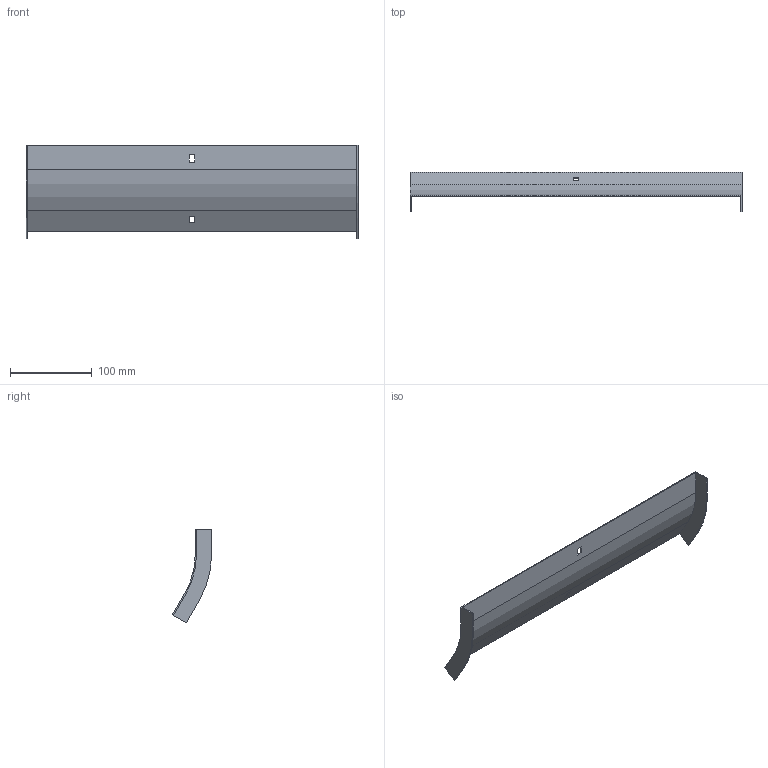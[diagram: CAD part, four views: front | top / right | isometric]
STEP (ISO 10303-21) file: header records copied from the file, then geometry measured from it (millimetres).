
FILE_DESCRIPTION (( 'STEP AP214' ), '1' );
FILE_NAME ('32G1P400.step', '2025-02-21T12:47:09', ( '' ), ( '' ), 'SwSTEP 2.0', 'SolidWorks 2023', '' );
FILE_SCHEMA (( 'AUTOMOTIVE_DESIGN' ));
Length unit declared in the file: millimetre
Products named in the file (1): 32G1P400
Bounding box: 407 x 48.2 x 115.23 mm (x, y, z)
Volume: 74685.2 mm3; surface area: 101370.3 mm2
Topology: 1 solids, 1 shells, 26 faces, 72 edges, 48 vertices
Faces by surface type: plane 22, cylinder 4
Entity records: 855 total; most frequent: CARTESIAN_POINT 147, ORIENTED_EDGE 144, DIRECTION 134, EDGE_CURVE 72, VECTOR 64, LINE 64, VERTEX_POINT 48, AXIS2_PLACEMENT_3D 35
